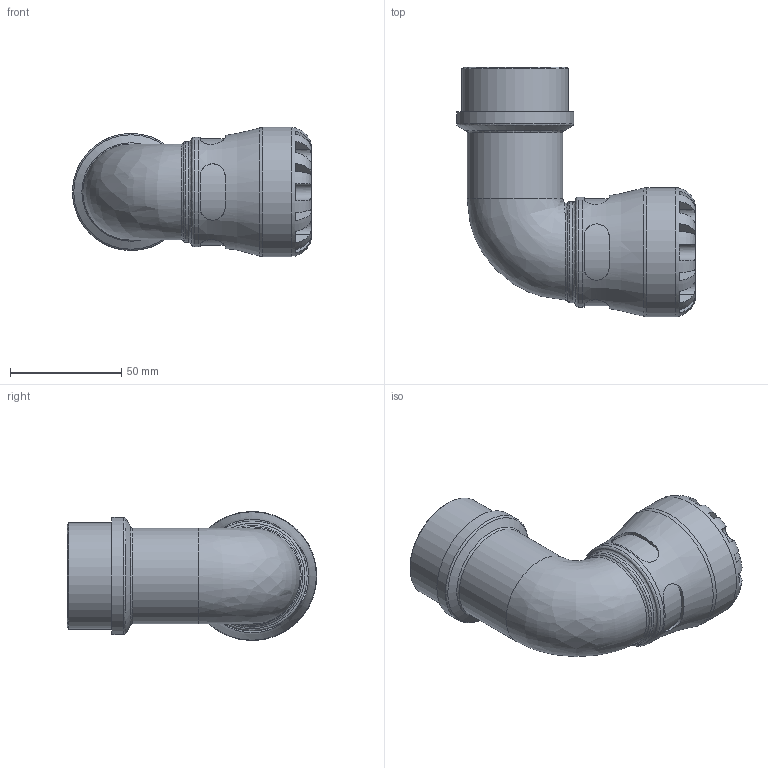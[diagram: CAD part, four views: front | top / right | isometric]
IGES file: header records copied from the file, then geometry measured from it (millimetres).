
Global section: file name: 107700032015_197700032015.ipt; native system: Autodesk Inventor 2015; preprocessor: unknown; author: KIM; date: 20180513.110414; units: millimetre
Bounding box: 107.29 x 112 x 58 mm (x, y, z)
Volume: 145447.8 mm3; surface area: 43992.8 mm2
Topology: 1 solids, 1 shells, 111 faces, 292 edges, 186 vertices
Faces by surface type: plane 60, revolution 28, cylinder 18, bspline 3, cone 2
Full cylindrical faces by diameter (mm): 43.023 x1, 45.24 x1, 47.803 x1, 49.3 x1, 52.583 x1, 58 x1
